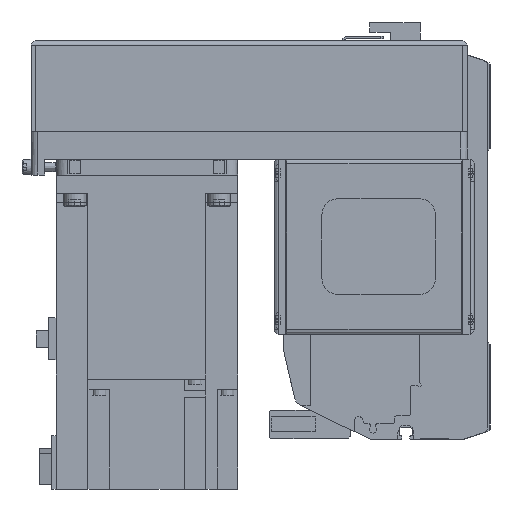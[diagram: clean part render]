
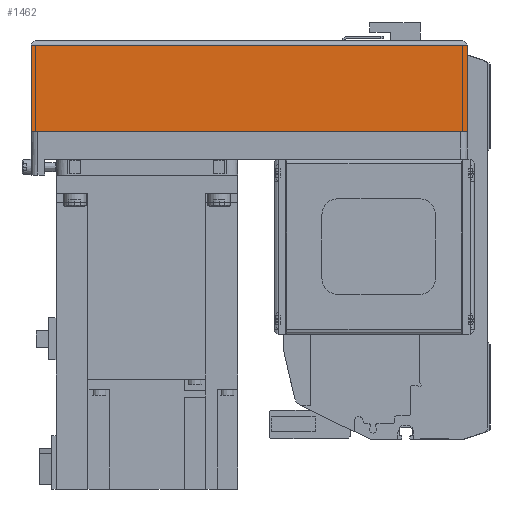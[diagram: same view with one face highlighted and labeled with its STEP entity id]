
A CAD part, left-side view. The second image highlights one B-rep face of the part: STEP entity #1462.
In plain terms, the highlighted planar face has unit normal (-1, 0, 0) as drawn and (0, 1, 0) by its records, which use the part's own axes.
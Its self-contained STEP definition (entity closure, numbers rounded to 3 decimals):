
#1462 = ADVANCED_FACE( '', ( #3946 ), #3947, .T. );
#3946 = FACE_OUTER_BOUND( '', #7874, .T. );
#3947 = PLANE( '', #7875 );
#7874 = EDGE_LOOP( '', ( #12150, #12151, #12152, #12153 ) );
#7875 = AXIS2_PLACEMENT_3D( '', #12154, #12155, #12156 );
#12150 = ORIENTED_EDGE( '', *, *, #22174, .F. );
#12151 = ORIENTED_EDGE( '', *, *, #22175, .F. );
#12152 = ORIENTED_EDGE( '', *, *, #22176, .T. );
#12153 = ORIENTED_EDGE( '', *, *, #22177, .T. );
#12154 = CARTESIAN_POINT( '', ( -192., 40., -50. ) );
#12155 = DIRECTION( '', ( 0., 1., 0. ) );
#12156 = DIRECTION( '', ( 0., 0., 1. ) );
#22174 = EDGE_CURVE( '', #26428, #26429, #26430, .T. );
#22175 = EDGE_CURVE( '', #26431, #26428, #26432, .T. );
#22176 = EDGE_CURVE( '', #26431, #26433, #26434, .T. );
#22177 = EDGE_CURVE( '', #26433, #26429, #26435, .T. );
#26428 = VERTEX_POINT( '', #32840 );
#26429 = VERTEX_POINT( '', #32841 );
#26430 = LINE( '', #32842, #32843 );
#26431 = VERTEX_POINT( '', #32844 );
#26432 = LINE( '', #32845, #32846 );
#26433 = VERTEX_POINT( '', #32847 );
#26434 = LINE( '', #32848, #32849 );
#26435 = LINE( '', #32850, #32851 );
#32840 = CARTESIAN_POINT( '', ( 0., 40., -50. ) );
#32841 = CARTESIAN_POINT( '', ( 0., 40., -12.1 ) );
#32842 = CARTESIAN_POINT( '', ( 0., 40., -50. ) );
#32843 = VECTOR( '', #41576, 1000. );
#32844 = CARTESIAN_POINT( '', ( -192., 40., -50. ) );
#32845 = CARTESIAN_POINT( '', ( -192., 40., -50. ) );
#32846 = VECTOR( '', #41577, 1000. );
#32847 = CARTESIAN_POINT( '', ( -192., 40., -12.1 ) );
#32848 = CARTESIAN_POINT( '', ( -192., 40., -50. ) );
#32849 = VECTOR( '', #41578, 1000. );
#32850 = CARTESIAN_POINT( '', ( -192., 40., -12.1 ) );
#32851 = VECTOR( '', #41579, 1000. );
#41576 = DIRECTION( '', ( 0., 0., 1. ) );
#41577 = DIRECTION( '', ( 1., 0., 0. ) );
#41578 = DIRECTION( '', ( 0., 0., 1. ) );
#41579 = DIRECTION( '', ( 1., 0., 0. ) );
